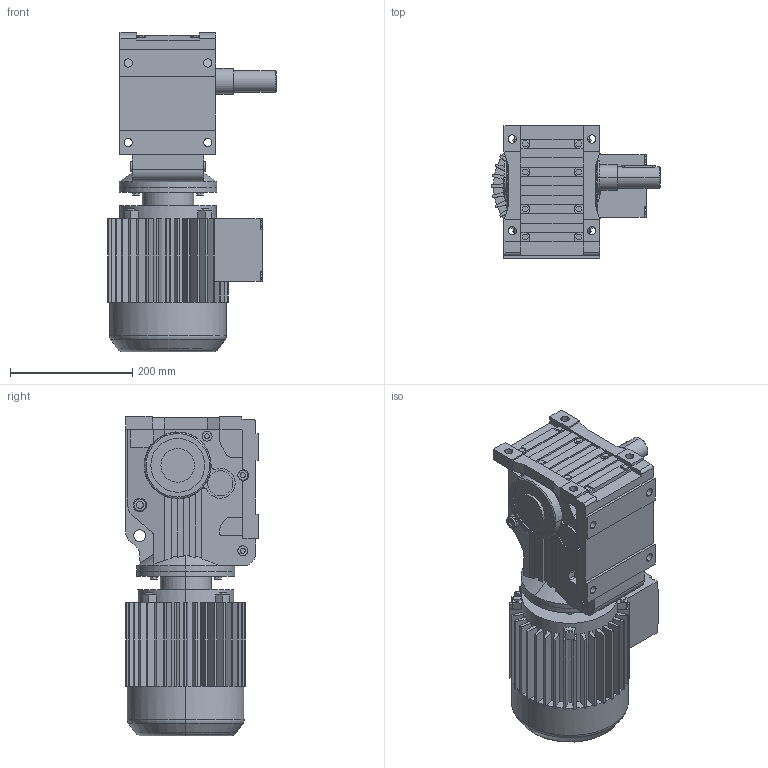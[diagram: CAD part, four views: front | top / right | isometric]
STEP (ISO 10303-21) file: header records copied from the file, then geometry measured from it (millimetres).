
FILE_DESCRIPTION(('Open CASCADE Model'),'2;1');
FILE_NAME('Open CASCADE Shape Model','2021-06-16T11:55:35',('Author'),( 'Open CASCADE'),'Open CASCADE STEP processor 6.3','Open CASCADE 6.3' ,'Unknown');
FILE_SCHEMA(('AUTOMOTIVE_DESIGN_CC2 { 1 2 10303 214 -1 1 5 4 }'));
Length unit declared in the file: millimetre
Products named in the file (4): 1_K57DT90-A; K37‵157_57.step; 萇儂_160-DT90-269-354-197-154.step; す瑩妗陑粣K_57.step
Assembly tree (3 placements, depth 2):
  1_K57DT90-A
    K37‵157_57.step
    萇儂_160-DT90-269-354-197-154.step
    す瑩妗陑粣K_57.step
Bounding box: 275.5 x 217.4 x 522 mm (x, y, z)
Volume: 13107279.1 mm3; surface area: 758539.6 mm2
Topology: 3 solids, 3 shells, 836 faces, 2204 edges, 1431 vertices
Faces by surface type: plane 582, cylinder 231, cone 15, torus 8
Entity records: 57508 total; most frequent: CARTESIAN_POINT 15627, DIRECTION 7217, ORIENTED_EDGE 4404, PCURVE 4404, DEFINITIONAL_REPRESENTATION 4404, LINE 3932, VECTOR 3932, EDGE_CURVE 2202
